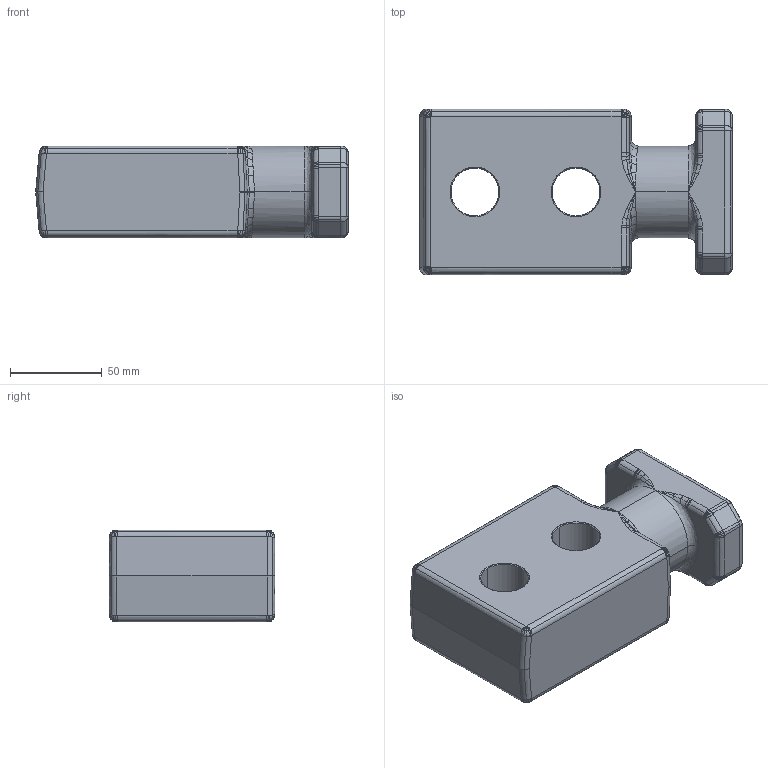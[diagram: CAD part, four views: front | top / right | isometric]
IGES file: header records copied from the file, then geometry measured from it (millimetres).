
Global section: file name: E:\UnigraphicsGraphicData\MISUMI_PRESS-PARTS\IGES\3d_chp50_03555_r00.igs; native system: NX V5.0; preprocessor: UGS NX IGES V5.0; author: MISUMI; date: 20110105.160228; units: millimetre
Bounding box: 170 x 90 x 50 mm (x, y, z)
Surface area: 58988.3 mm2 (no closed solid volume)
Topology: 0 solids, 0 shells, 493 faces, 2661 edges, 2615 vertices
Faces by surface type: bspline 493
